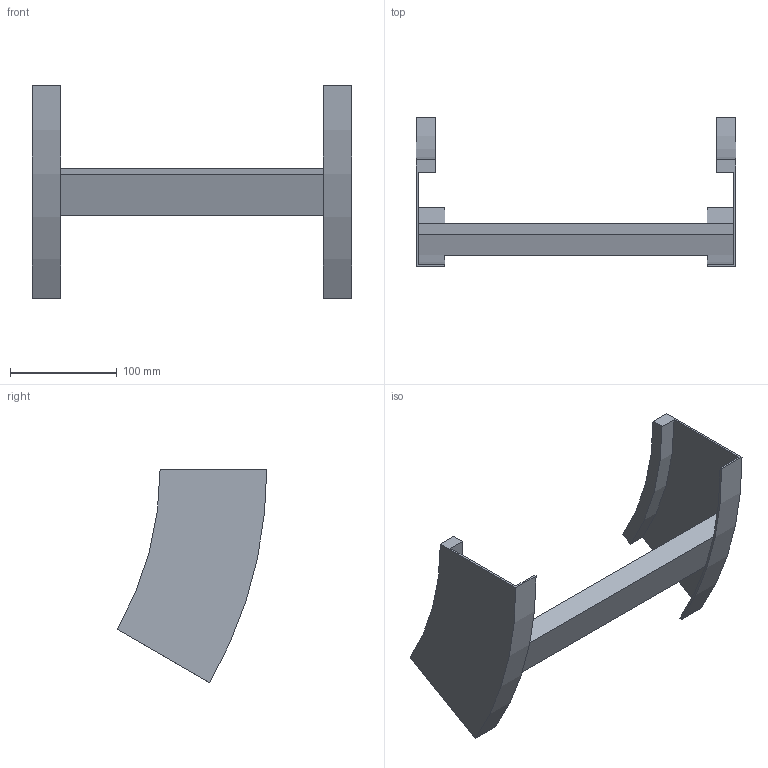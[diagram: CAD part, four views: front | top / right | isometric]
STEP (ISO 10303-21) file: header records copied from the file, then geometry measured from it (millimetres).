
FILE_DESCRIPTION (( 'STEP AP214' ), '1' );
FILE_NAME ('B2X32B3D300XX.step', '2025-03-20T09:58:05', ( '' ), ( '' ), 'SwSTEP 2.0', 'SolidWorks 2023', '' );
FILE_SCHEMA (( 'AUTOMOTIVE_DESIGN' ));
Length unit declared in the file: millimetre
Products named in the file (3): B2_LONGH.SALITA_30°_H100_R300; TRAVERSINO_300; B2X32B3D300XX
Assembly tree (3 placements, depth 2):
  B2X32B3D300XX
    B2_LONGH.SALITA_30°_H100_R300  x2
    TRAVERSINO_300
Bounding box: 300 x 140.19 x 200 mm (x, y, z)
Volume: 395480.4 mm3; surface area: 145119.7 mm2
Topology: 3 solids, 3 shells, 26 faces, 60 edges, 40 vertices
Faces by surface type: plane 18, cylinder 8
Entity records: 544 total; most frequent: DIRECTION 88, CARTESIAN_POINT 82, ORIENTED_EDGE 72, EDGE_CURVE 36, AXIS2_PLACEMENT_3D 30, VECTOR 28, LINE 28, VERTEX_POINT 24
